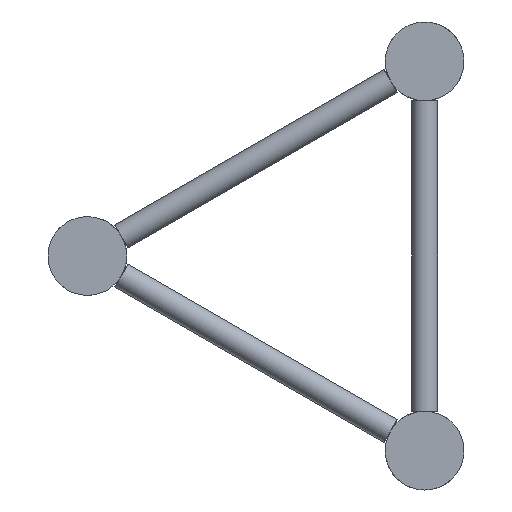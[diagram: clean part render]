
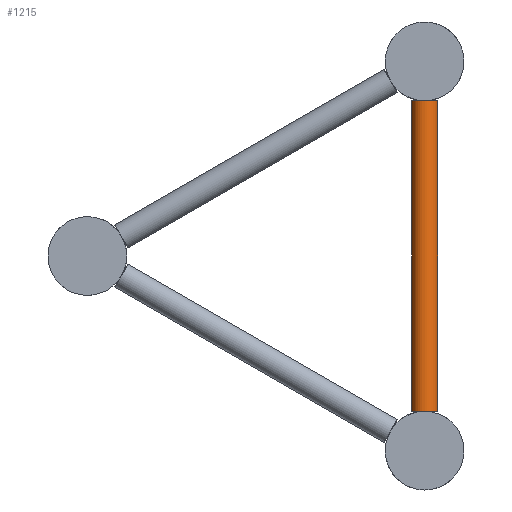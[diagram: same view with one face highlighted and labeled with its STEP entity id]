
A CAD part, left-side view. The second image highlights one B-rep face of the part: STEP entity #1215.
In plain terms, the highlighted cylindrical face has radius 8 mm (diameter 16 mm), a full revolution.
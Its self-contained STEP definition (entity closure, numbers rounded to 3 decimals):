
#74=CIRCLE('',#1319,8.);
#104=CIRCLE('',#1386,8.);
#105=CIRCLE('',#1388,8.);
#106=CIRCLE('',#1390,8.);
#175=FACE_BOUND('',#455,.T.);
#220=CYLINDRICAL_SURFACE('',#1389,8.);
#308=FACE_OUTER_BOUND('',#454,.T.);
#454=EDGE_LOOP('',(#903,#904));
#455=EDGE_LOOP('',(#905,#906));
#553=VERTEX_POINT('',#1875);
#554=VERTEX_POINT('',#1876);
#559=VERTEX_POINT('',#1897);
#560=VERTEX_POINT('',#1898);
#650=EDGE_CURVE('',#554,#553,#74,.T.);
#696=EDGE_CURVE('',#560,#559,#104,.T.);
#697=EDGE_CURVE('',#553,#554,#105,.T.);
#698=EDGE_CURVE('',#559,#560,#106,.T.);
#903=ORIENTED_EDGE('',*,*,#650,.T.);
#904=ORIENTED_EDGE('',*,*,#697,.T.);
#905=ORIENTED_EDGE('',*,*,#696,.T.);
#906=ORIENTED_EDGE('',*,*,#698,.T.);
#1215=ADVANCED_FACE('',(#308,#175),#220,.T.);
#1319=AXIS2_PLACEMENT_3D('',#1885,#1565,#1566);
#1386=AXIS2_PLACEMENT_3D('',#2144,#1707,#1708);
#1388=AXIS2_PLACEMENT_3D('',#2146,#1711,#1712);
#1389=AXIS2_PLACEMENT_3D('',#2147,#1713,#1714);
#1390=AXIS2_PLACEMENT_3D('',#2148,#1715,#1716);
#1565=DIRECTION('center_axis',(0.,0.,
1.));
#1566=DIRECTION('ref_axis',(-1.,0.,0.));
#1707=DIRECTION('center_axis',(0.,0.,
-1.));
#1708=DIRECTION('ref_axis',(-1.,0.,0.));
#1711=DIRECTION('center_axis',(0.,0.,
1.));
#1712=DIRECTION('ref_axis',(-1.,0.,0.));
#1713=DIRECTION('center_axis',(0.,0.,
1.));
#1714=DIRECTION('ref_axis',(-1.,0.,0.));
#1715=DIRECTION('center_axis',(0.,0.,
-1.));
#1716=DIRECTION('ref_axis',(-1.,0.,0.));
#1875=CARTESIAN_POINT('',(52.,0.,-214.85));
#1876=CARTESIAN_POINT('',(68.,0.,-214.85));
#1885=CARTESIAN_POINT('Origin',(60.,0.,-214.85));
#1897=CARTESIAN_POINT('',(52.,0.,-24.15));
#1898=CARTESIAN_POINT('',(68.,0.,-24.15));
#2144=CARTESIAN_POINT('Origin',(60.,0.,-24.15));
#2146=CARTESIAN_POINT('Origin',(60.,0.,-214.85));
#2147=CARTESIAN_POINT('Origin',(60.,0.,-119.5));
#2148=CARTESIAN_POINT('Origin',(60.,0.,-24.15));
